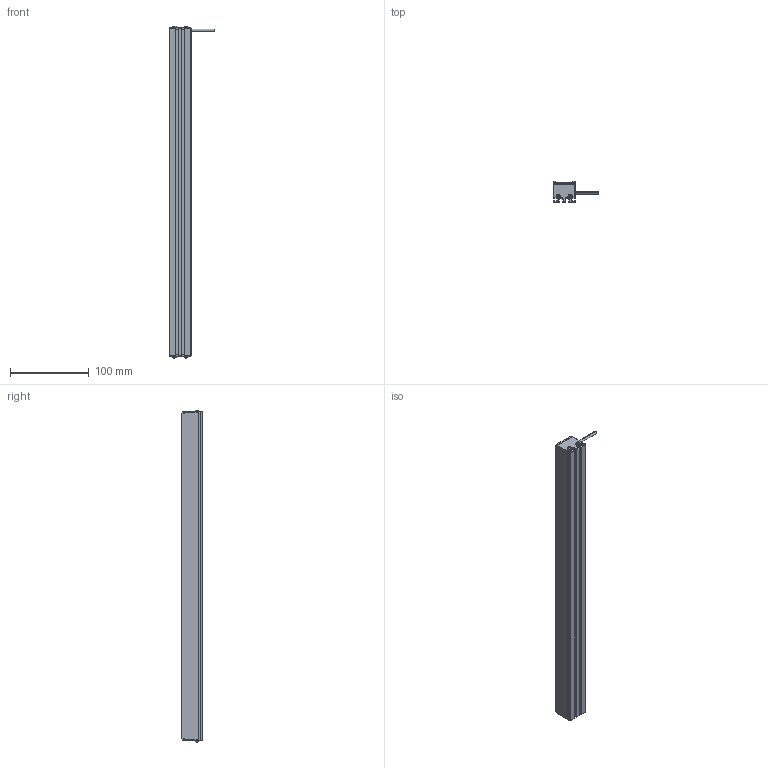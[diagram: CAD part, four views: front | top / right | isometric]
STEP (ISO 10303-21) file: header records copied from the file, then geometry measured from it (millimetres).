
FILE_DESCRIPTION((''),'2;1');
FILE_NAME('MV-LLDS-417-28_ASM','2020-12-30T',('Administrator'),(''),'PRO/ENGINEER BY PARAMETRIC TECHNOLOGY CORPORATION, 2010100','PRO/ENGINEER BY PARAMETRIC TECHNOLOGY CORPORATION, 2010100','');
FILE_SCHEMA(('CONFIG_CONTROL_DESIGN'));
Length unit declared in the file: millimetre
Products named in the file (3): BL-4_2_; M3-5_3; MV-LLDS-417-28_ASM
Assembly tree (5 placements, depth 2):
  MV-LLDS-417-28_ASM
    BL-4_2_
    M3-5_3  x4
Bounding box: 58 x 27 x 421.68 mm (x, y, z)
Volume: 261299.4 mm3; surface area: 98241.7 mm2
Topology: 5 solids, 13 shells, 303 faces, 802 edges, 516 vertices
Faces by surface type: plane 185, cylinder 70, cone 16, bspline 16, torus 8, sphere 8
Entity records: 6720 total; most frequent: CARTESIAN_POINT 1432, ORIENTED_EDGE 1074, DIRECTION 1069, EDGE_CURVE 547, VECTOR 397, LINE 397, VERTEX_POINT 357, AXIS2_PLACEMENT_3D 336
